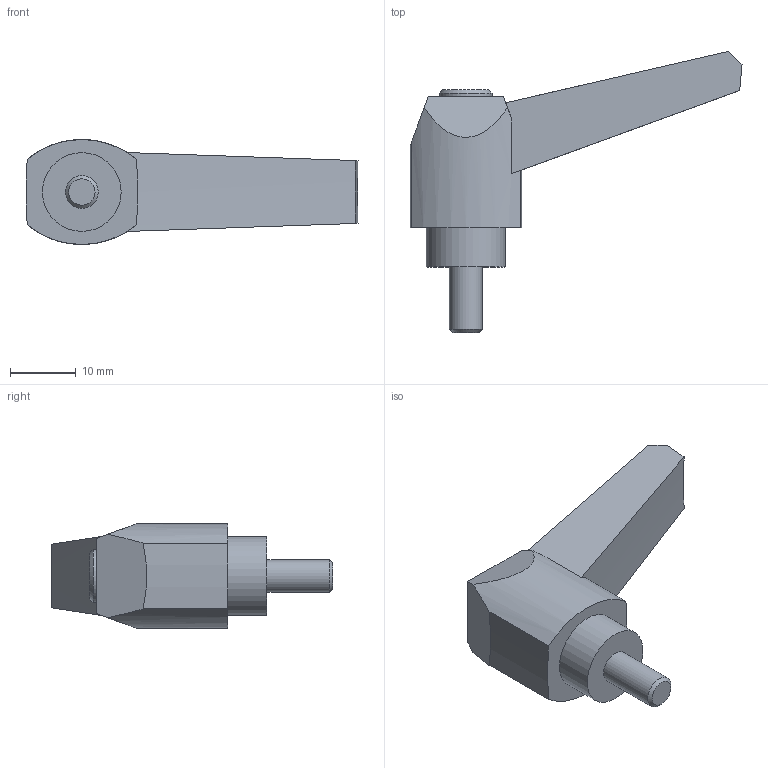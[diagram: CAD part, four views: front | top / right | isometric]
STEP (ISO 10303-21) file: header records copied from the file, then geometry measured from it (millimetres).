
FILE_DESCRIPTION( ( 'STEP AP203' ), '1' );
FILE_NAME( 'C:/Temp/Ganter_Step_05_03_2020/data/2_1/gn_500/gn_500_ms/Adjustable hand lever GN 500-42-M5-10-SW.stp', '2020-03-05T11:26:30', ( 'License CC BY-ND 4.0' ), ( 'CADENAS' ), ' ', 'PARTsolutions', ' ' );
FILE_SCHEMA( ( 'CONFIG_CONTROL_DESIGN' ) );
Length unit declared in the file: millimetre
Products named in the file (1): _Adjustable hand lever GN 500-42-M5-10-SW
Bounding box: 50.59 x 42.85 x 16 mm (x, y, z)
Volume: 8512.4 mm3; surface area: 3172.1 mm2
Topology: 1 solids, 1 shells, 24 faces, 56 edges, 37 vertices
Faces by surface type: plane 11, cylinder 7, cone 6
Full cylindrical faces by diameter (mm): 5 x1, 8 x1, 12 x1
Entity records: 708 total; most frequent: CARTESIAN_POINT 123, DIRECTION 118, ORIENTED_EDGE 100, EDGE_CURVE 50, AXIS2_PLACEMENT_3D 47, VERTEX_POINT 36, EDGE_LOOP 32, FACE_OUTER_BOUND 27
